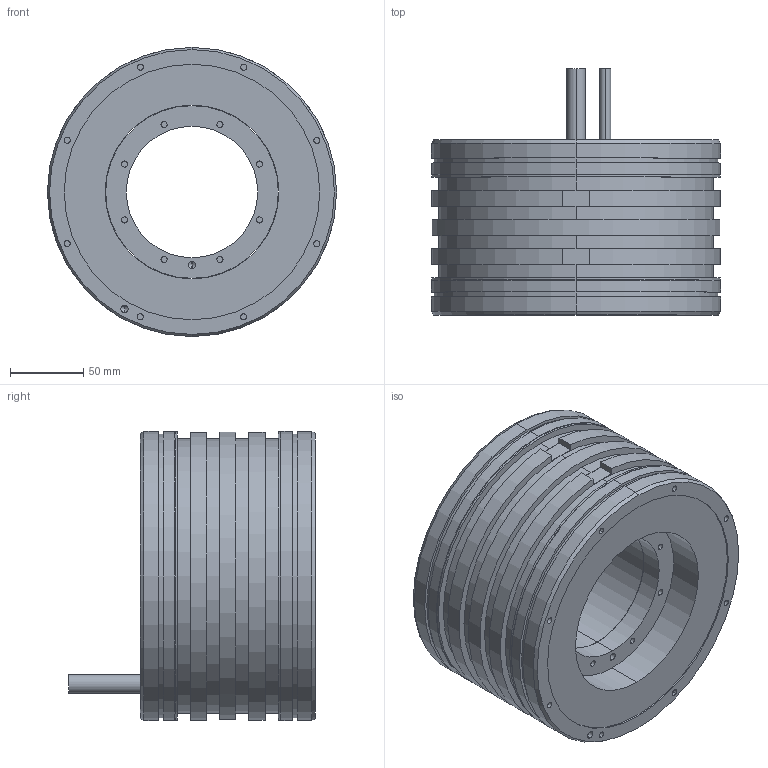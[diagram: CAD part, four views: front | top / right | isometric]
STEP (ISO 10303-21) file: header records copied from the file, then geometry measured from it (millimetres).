
FILE_DESCRIPTION (( 'STEP AP203' ), '1' );
FILE_NAME ('TM-2-27.STEP', '2020-10-20T05:39:12', ( '' ), ( '' ), 'SwSTEP 2.0', 'SolidWorks 2015', '' );
FILE_SCHEMA (( 'CONFIG_CONTROL_DESIGN' ));
Length unit declared in the file: millimetre
Products named in the file (3): TM-2-2X_rotor_TM-2-27_rotor; TM-2-27; TM-2-2X_stator_TM-2-27_stator
Assembly tree (2 placements, depth 2):
  TM-2-27
    TM-2-2X_stator_TM-2-27_stator
    TM-2-2X_rotor_TM-2-27_rotor
Bounding box: 198 x 169 x 198 mm (x, y, z)
Volume: 2534756.9 mm3; surface area: 249595.4 mm2
Topology: 2 solids, 2 shells, 198 faces, 418 edges, 264 vertices
Faces by surface type: cylinder 119, plane 63, cone 16
Entity records: 5645 total; most frequent: DIRECTION 1058, CARTESIAN_POINT 877, ORIENTED_EDGE 820, AXIS2_PLACEMENT_3D 445, EDGE_CURVE 410, VERTEX_POINT 264, EDGE_LOOP 250, CIRCLE 242
